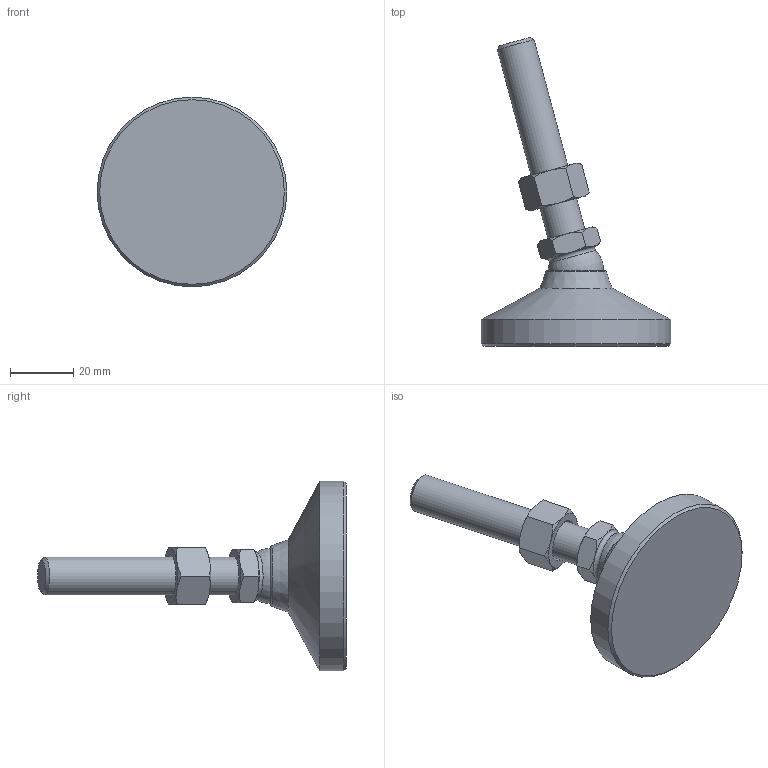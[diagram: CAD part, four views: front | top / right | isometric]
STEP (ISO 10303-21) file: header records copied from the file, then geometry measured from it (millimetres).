
FILE_DESCRIPTION( ( 'STEP AP214' ), ' ' );
FILE_NAME( 'O:/ganter_2015/teil_2/2_5/gn343_2/gn343_2_os/Levelling foot with threaded stud GN 343.2-60-M12-63-OS-(15).stp', '2015-10-26T09:08:16', ( '' ), ( '' ), ' ', 'PARTsolutions', ' ' );
FILE_SCHEMA( ( 'AUTOMOTIVE_DESIGN { 1 0 10303 214 1 1 1 1 }' ) );
Length unit declared in the file: millimetre
Products named in the file (4): Levelling foot with threaded stud GN 343.2-60-M12-63-OS-(15); _Levelling foot with threaded stud GN 343.2-60-M12-63-OS-(15)_foot; _Levelling foot with threaded stud GN 343.2-60-M12-63-OS-(15)_screw; _Stainless Steel-Levelling feet GN 343.2-60-M12-63-OS-(15)_nut
Assembly tree (3 placements, depth 2):
  Levelling foot with threaded stud GN 343.2-60-M12-63-OS-(15)
    _Levelling foot with threaded stud GN 343.2-60-M12-63-OS-(15)_foot
    _Levelling foot with threaded stud GN 343.2-60-M12-63-OS-(15)_screw
    _Stainless Steel-Levelling feet GN 343.2-60-M12-63-OS-(15)_nut
Bounding box: 60 x 97.75 x 60 mm (x, y, z)
Volume: 52166.9 mm3; surface area: 13096 mm2
Topology: 3 solids, 3 shells, 55 faces, 116 edges, 67 vertices
Faces by surface type: cone 30, plane 18, cylinder 3, torus 2, sphere 2
Full cylindrical faces by diameter (mm): 10.106 x1, 12 x1, 60 x1
Entity records: 2038 total; most frequent: CARTESIAN_POINT 495, DIRECTION 208, ORIENTED_EDGE 198, EDGE_CURVE 99, AXIS2_PLACEMENT_3D 98, EDGE_LOOP 70, VERTEX_POINT 65, FACE_OUTER_BOUND 60
